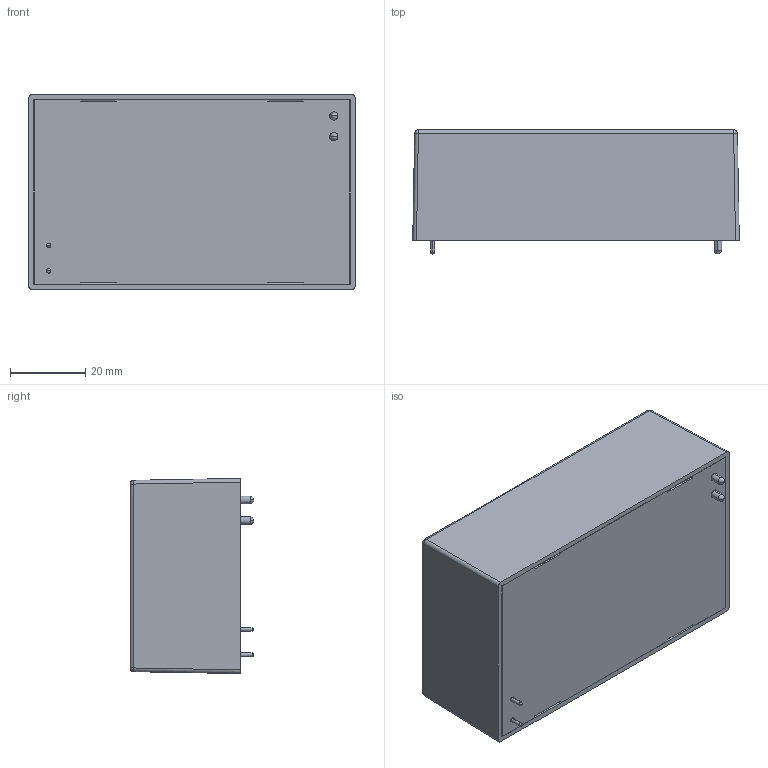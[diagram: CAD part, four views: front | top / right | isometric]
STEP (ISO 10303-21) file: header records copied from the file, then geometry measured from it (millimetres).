
FILE_DESCRIPTION (( 'STEP AP214' ), '1' );
FILE_NAME ('VTX-214-045-1xx.STEP', '2022-03-02T15:18:53', ( '' ), ( '' ), 'SwSTEP 2.0', 'SolidWorks 2020', '' );
FILE_SCHEMA (( 'AUTOMOTIVE_DESIGN' ));
Length unit declared in the file: millimetre
Products named in the file (1): VTX-214-045-1xx
Bounding box: 87 x 33 x 52 mm (x, y, z)
Volume: 130527.9 mm3; surface area: 17368.8 mm2
Topology: 1 solids, 1 shells, 122 faces, 324 edges, 198 vertices
Faces by surface type: plane 57, cylinder 35, bspline 22, cone 8
Entity records: 4478 total; most frequent: CARTESIAN_POINT 1554, ORIENTED_EDGE 614, DIRECTION 487, EDGE_CURVE 307, VERTEX_POINT 198, AXIS2_PLACEMENT_3D 178, EDGE_LOOP 133, VECTOR 131
